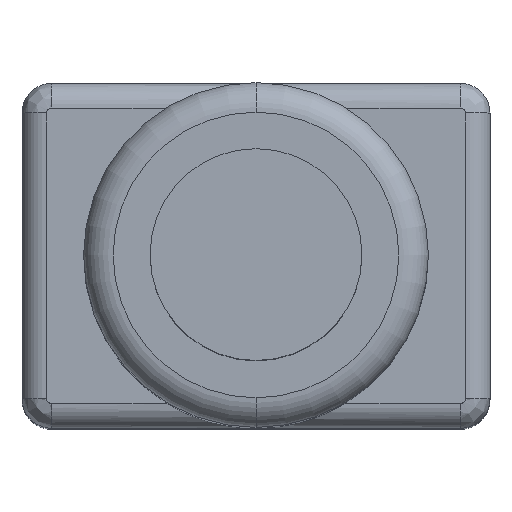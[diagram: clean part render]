
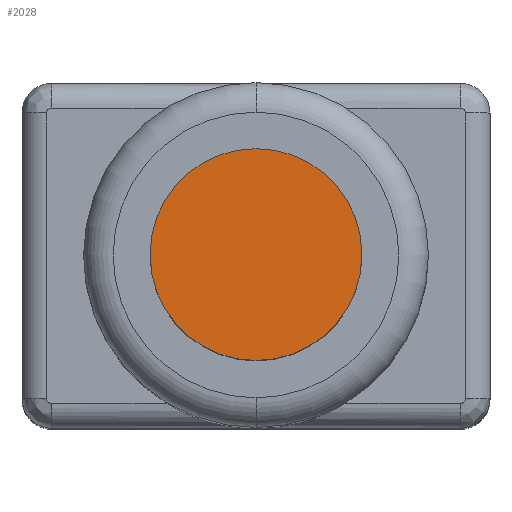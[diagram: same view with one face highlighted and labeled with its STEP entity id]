
A CAD part, top view. The second image highlights one B-rep face of the part: STEP entity #2028.
In plain terms, the highlighted planar face has unit normal (0, 0, 1).
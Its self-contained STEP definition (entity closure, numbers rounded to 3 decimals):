
#181=CARTESIAN_POINT('',(0.,-0.25,30.));
#182=DIRECTION('',(0.,0.,1.));
#183=DIRECTION('',(0.,1.,0.));
#184=AXIS2_PLACEMENT_3D('',#181,#182,#183);
#186=CARTESIAN_POINT('',(0.,-0.25,30.));
#187=DIRECTION('',(0.,0.,-1.));
#188=DIRECTION('',(0.,1.,0.));
#189=AXIS2_PLACEMENT_3D('',#186,#187,#188);
#1444=CARTESIAN_POINT('',(0.,1.9,30.));
#1446=VERTEX_POINT('',#1444);
#1448=CARTESIAN_POINT('',(0.,-2.4,30.));
#1450=VERTEX_POINT('',#1448);
#2019=CARTESIAN_POINT('',(0.,-0.25,30.));
#2020=DIRECTION('',(0.,0.,-1.));
#2021=DIRECTION('',(0.,-1.,0.));
#2022=AXIS2_PLACEMENT_3D('',#2019,#2020,#2021);
#2023=PLANE('',#2022);
#2024=ORIENTED_EDGE('',*,*,#2012,.F.);
#2025=ORIENTED_EDGE('',*,*,#2001,.T.);
#2026=EDGE_LOOP('',(#2024,#2025));
#2027=FACE_OUTER_BOUND('',#2026,.F.);
#2028=ADVANCED_FACE('',(#2027),#2023,.F.);
#185=CIRCLE('',#184,2.15);
#190=CIRCLE('',#189,2.15);
#2001=EDGE_CURVE('',#1446,#1450,#190,.T.);
#2012=EDGE_CURVE('',#1446,#1450,#185,.T.);
